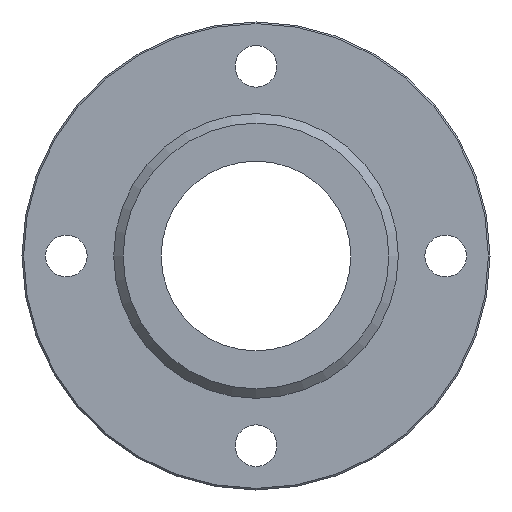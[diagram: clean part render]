
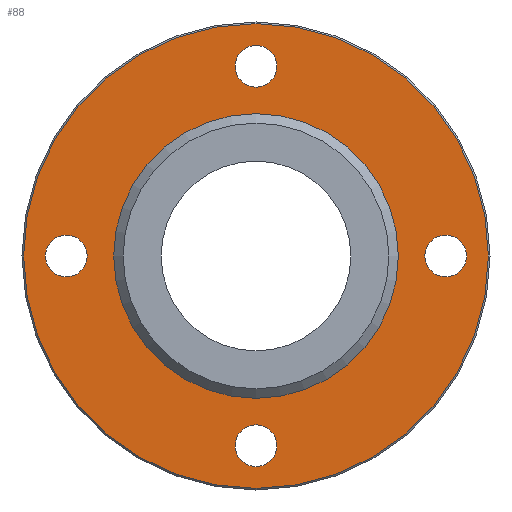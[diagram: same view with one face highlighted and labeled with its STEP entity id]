
A CAD part, left-side view. The second image highlights one B-rep face of the part: STEP entity #88.
In plain terms, the highlighted planar face has unit normal (-1, 0, 0).
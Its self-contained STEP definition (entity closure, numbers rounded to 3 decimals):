
#88=ADVANCED_FACE('',(#143,#144,#145,#146,#147,#148),#149,.F.);
#143=FACE_OUTER_BOUND('',#223,.T.);
#144=FACE_BOUND('',#224,.T.);
#145=FACE_BOUND('',#225,.T.);
#146=FACE_BOUND('',#226,.T.);
#147=FACE_BOUND('',#227,.T.);
#148=FACE_BOUND('',#228,.T.);
#149=PLANE('',#229);
#223=EDGE_LOOP('',(#329));
#224=EDGE_LOOP('',(#330));
#225=EDGE_LOOP('',(#331));
#226=EDGE_LOOP('',(#332));
#227=EDGE_LOOP('',(#333));
#228=EDGE_LOOP('',(#334));
#229=AXIS2_PLACEMENT_3D('',#335,#336,#337);
#329=ORIENTED_EDGE('',*,*,#405,.T.);
#330=ORIENTED_EDGE('',*,*,#406,.T.);
#331=ORIENTED_EDGE('',*,*,#407,.T.);
#332=ORIENTED_EDGE('',*,*,#408,.T.);
#333=ORIENTED_EDGE('',*,*,#409,.T.);
#334=ORIENTED_EDGE('',*,*,#396,.T.);
#335=CARTESIAN_POINT('',(-14.0,36.746,0.0));
#336=DIRECTION('',(1.0,0.0,0.0));
#337=DIRECTION('',(0.0,0.0,-1.0));
#396=EDGE_CURVE('',#432,#432,#433,.T.);
#405=EDGE_CURVE('',#450,#450,#451,.T.);
#406=EDGE_CURVE('',#452,#452,#453,.T.);
#407=EDGE_CURVE('',#454,#454,#455,.T.);
#408=EDGE_CURVE('',#456,#456,#457,.T.);
#409=EDGE_CURVE('',#458,#458,#459,.T.);
#432=VERTEX_POINT('',#488);
#433=CIRCLE('',#489,22.5);
#450=VERTEX_POINT('',#506);
#451=CIRCLE('',#507,36.746);
#452=VERTEX_POINT('',#508);
#453=CIRCLE('',#509,3.3);
#454=VERTEX_POINT('',#510);
#455=CIRCLE('',#511,3.3);
#456=VERTEX_POINT('',#512);
#457=CIRCLE('',#513,3.3);
#458=VERTEX_POINT('',#514);
#459=CIRCLE('',#515,3.3);
#488=CARTESIAN_POINT('',(-14.0,0.0,-22.5));
#489=AXIS2_PLACEMENT_3D('',#552,#553,#554);
#506=CARTESIAN_POINT('',(-14.0,0.0,36.746));
#507=AXIS2_PLACEMENT_3D('',#579,#580,#581);
#508=CARTESIAN_POINT('',(-14.0,30.0,-3.3));
#509=AXIS2_PLACEMENT_3D('',#582,#583,#584);
#510=CARTESIAN_POINT('',(-14.0,0.0,26.7));
#511=AXIS2_PLACEMENT_3D('',#585,#586,#587);
#512=CARTESIAN_POINT('',(-14.0,-30.0,-3.3));
#513=AXIS2_PLACEMENT_3D('',#588,#589,#590);
#514=CARTESIAN_POINT('',(-14.0,0.,-33.3));
#515=AXIS2_PLACEMENT_3D('',#591,#592,#593);
#552=CARTESIAN_POINT('',(-14.0,0.0,0.0));
#553=DIRECTION('',(1.0,0.0,0.0));
#554=DIRECTION('',(0.0,0.0,-1.0));
#579=CARTESIAN_POINT('',(-14.0,0.0,0.0));
#580=DIRECTION('',(-1.0,0.0,0.0));
#581=DIRECTION('',(0.0,0.0,1.0));
#582=CARTESIAN_POINT('',(-14.0,30.0,0.0));
#583=DIRECTION('',(1.0,0.0,0.0));
#584=DIRECTION('',(0.0,0.0,-1.0));
#585=CARTESIAN_POINT('',(-14.0,0.0,30.0));
#586=DIRECTION('',(1.0,0.0,0.0));
#587=DIRECTION('',(0.0,0.0,-1.0));
#588=CARTESIAN_POINT('',(-14.0,-30.0,0.));
#589=DIRECTION('',(1.0,0.0,0.0));
#590=DIRECTION('',(0.0,0.0,-1.0));
#591=CARTESIAN_POINT('',(-14.0,0.,-30.0));
#592=DIRECTION('',(1.0,0.0,0.0));
#593=DIRECTION('',(0.0,0.0,-1.0));
